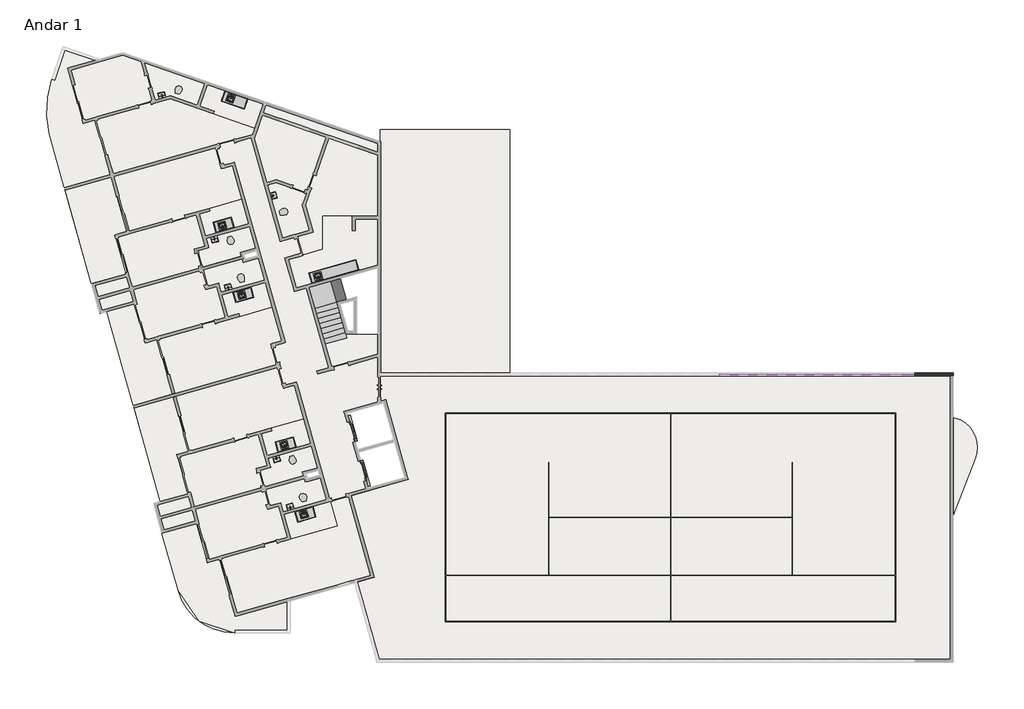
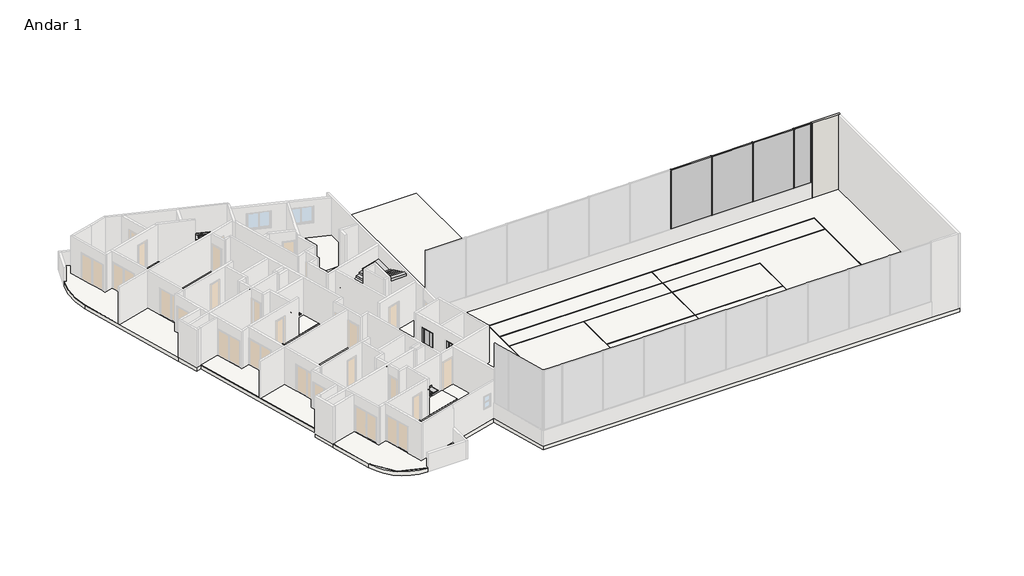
# One storey, part 4 of 4: 20 slabs, 18 flow terminals, 9 members, 8 proxies, 4 plates, 1 stair flight, 1 wall.
"""IFC4 building model written with IfcOpenShell, lengths in millimetres."""

from ifc_helpers import new_model, si_unit, point, frame, frame_2d, origin, place, context, project, spatial, polyline, circle_curve, trimmed, segment, composite_curve, outline, extrude, faceted_brep, transform, mapped, element, save
from components import specialty_equipment_6c35da8b, specialty_equipment_77dfa124, rf_bancada_cozinha_rf_bancada_cozinha_340fef9f, rf_bancada_cozinha_rf_bancada_cozinha_cfb88ba1, rf_bancada_cozinha_rf_bancada_cozinha_2f873929, rf_bancada_cozinha_rf_bancada_cozinha_798ceddf, flow_terminal_cab7bae2, flow_terminal_3fb7dc42, flow_terminal_e42b9071, flow_terminal_c6e042c4, ap_01_creme_cr37_13e02e03, ap_01_creme_cr37_5ce6e54d, montante_retangular_montante_circular_5ff1fdcf, montante_retangular_montante_circular_86a469dc, montante_retangular_montante_circular_5da571e1, montante_retangular_montante_circular_93a7cbd2, painel_do_sistema_4e286993, painel_do_sistema_153f832d

model = new_model("IFC4")

# Units and contexts
model_context = context("Model", 3, world=origin())
ifc_project = project(units=[si_unit("LENGTHUNIT", "METRE", prefix="MILLI")], contexts=[model_context])

# Site, building, storey
site = spatial("IfcSite", under=ifc_project)
building = spatial("IfcBuilding", under=site)
storey = spatial("IfcBuildingStorey", under=building, Name="Andar 1", Elevation=53650.0)

# Proxies
placement = place(None, origin())
specialty_equipment_shape = specialty_equipment_6c35da8b(model_context)
element("IfcBuildingElementProxy", 1, Name="Porta do elevador : Porta do elevador", ObjectType="Porta do elevador : Porta do elevador", at=placement, inside=storey, context=model_context, shape_type="MappedRepresentation", body=[
    mapped(specialty_equipment_shape, transform((-76594.4337486, 15747.4543727, 53650.0), x_axis=(0.27176796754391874, -0.9623628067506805, 0.0), y_axis=(0.9623628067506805, 0.27176796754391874, 0.0), z_axis=(0.0, 0.0, 1.0))),
])
specialty_equipment_2_shape = specialty_equipment_77dfa124(model_context)
element("IfcBuildingElementProxy", 2, Name="Porta do elevador : Porta do elevador", ObjectType="Porta do elevador : Porta do elevador", at=placement, inside=storey, context=model_context, shape_type="MappedRepresentation", body=[
    mapped(specialty_equipment_2_shape, transform((-75942.1906265, 13437.7836365, 53650.0), x_axis=(-0.27176796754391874, 0.9623628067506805, 0.0), y_axis=(-0.9623628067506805, -0.27176796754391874, 0.0), z_axis=(0.0, 0.0, 1.0))),
])
rf_bancada_cozinha_rf_bancada_cozinha_shape = rf_bancada_cozinha_rf_bancada_cozinha_340fef9f(model_context)
element("IfcBuildingElementProxy", 3, Name="RF_Bancada Cozinha : RF_Bancada Cozinha", ObjectType="RF_Bancada Cozinha : RF_Bancada Cozinha", at=placement, inside=storey, context=model_context, shape_type="MappedRepresentation", body=[
    mapped(rf_bancada_cozinha_rf_bancada_cozinha_shape, transform((-82760.548019, 26451.5820971, 54400.0), x_axis=(-0.9623628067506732, -0.27176796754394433, 0.0), y_axis=(0.27176796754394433, -0.9623628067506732, 0.0), z_axis=(0.0, 0.0, 1.0))),
])
element("IfcBuildingElementProxy", 4, Name="RF_Bancada Cozinha : RF_Bancada Cozinha", ObjectType="RF_Bancada Cozinha : RF_Bancada Cozinha", at=placement, inside=storey, context=model_context, shape_type="MappedRepresentation", body=[
    mapped(rf_bancada_cozinha_rf_bancada_cozinha_shape, transform((-79472.1556117, 14806.9921354, 54400.0), x_axis=(-0.9623628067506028, -0.2717679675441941, 0.0), y_axis=(0.2717679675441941, -0.9623628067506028, 0.0), z_axis=(0.0, 0.0, 1.0))),
])
rf_bancada_cozinha_rf_bancada_cozinha_2_shape = rf_bancada_cozinha_rf_bancada_cozinha_cfb88ba1(model_context)
element("IfcBuildingElementProxy", 5, Name="RF_Bancada Cozinha : RF_Bancada Cozinha", ObjectType="RF_Bancada Cozinha : RF_Bancada Cozinha", at=placement, inside=storey, context=model_context, shape_type="MappedRepresentation", body=[
    mapped(rf_bancada_cozinha_rf_bancada_cozinha_2_shape, transform((-81877.3021245, 23323.9029751, 54400.0), x_axis=(-0.9623628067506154, -0.27176796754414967, 0.0), y_axis=(0.27176796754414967, -0.9623628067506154, 0.0), z_axis=(0.0, 0.0, 1.0))),
])
element("IfcBuildingElementProxy", 6, Name="RF_Bancada Cozinha : RF_Bancada Cozinha", ObjectType="RF_Bancada Cozinha : RF_Bancada Cozinha", at=placement, inside=storey, context=model_context, shape_type="MappedRepresentation", body=[
    mapped(rf_bancada_cozinha_rf_bancada_cozinha_2_shape, transform((-78588.9097172, 11679.3130134, 54400.0), x_axis=(-0.9623628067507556, -0.27176796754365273, 0.0), y_axis=(0.27176796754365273, -0.9623628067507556, 0.0), z_axis=(0.0, 0.0, 1.0))),
])
rf_bancada_cozinha_rf_bancada_cozinha_3_shape = rf_bancada_cozinha_rf_bancada_cozinha_2f873929(model_context)
element("IfcBuildingElementProxy", 7, Name="RF_Bancada Cozinha : RF_Bancada Cozinha", ObjectType="RF_Bancada Cozinha : RF_Bancada Cozinha", at=placement, inside=storey, context=model_context, shape_type="MappedRepresentation", body=[
    mapped(rf_bancada_cozinha_rf_bancada_cozinha_3_shape, transform((-82030.0326121, 33293.9830661, 54400.0), x_axis=(-0.9449109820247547, 0.32732741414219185, 0.0), y_axis=(-0.32732741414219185, -0.9449109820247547, 0.0), z_axis=(0.0, 0.0, 1.0))),
])
rf_bancada_cozinha_rf_bancada_cozinha_4_shape = rf_bancada_cozinha_rf_bancada_cozinha_798ceddf(model_context)
element("IfcBuildingElementProxy", 8, Name="RF_Bancada Cozinha : RF_Bancada Cozinha", ObjectType="RF_Bancada Cozinha : RF_Bancada Cozinha", at=placement, inside=storey, context=model_context, shape_type="MappedRepresentation", body=[
    mapped(rf_bancada_cozinha_rf_bancada_cozinha_4_shape, transform((-76157.6622331, 24197.9763092, 54400.0), x_axis=(-0.9623628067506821, -0.27176796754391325, 0.0), y_axis=(0.27176796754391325, -0.9623628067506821, 0.0), z_axis=(0.0, 0.0, 1.0))),
])

# Flow terminals
flow_terminal_shape = flow_terminal_cab7bae2(model_context)
element("IfcFlowTerminal", 9, ObjectType="RF_Pias : Pia da Bancada", at=placement, inside=storey, context=model_context, shape_type="MappedRepresentation", body=[
    mapped(flow_terminal_shape, transform((-83380.5102831, 26570.4992214, 53502.9), x_axis=(-0.9623628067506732, -0.27176796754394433, 0.0), y_axis=(0.27176796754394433, -0.9623628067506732, 0.0), z_axis=(0.0, 0.0, 1.0))),
])
element("IfcFlowTerminal", 10, ObjectType="RF_Pias : Pia da Bancada", at=placement, inside=storey, context=model_context, shape_type="MappedRepresentation", body=[
    mapped(flow_terminal_shape, transform((-80092.1178758, 14925.9092597, 53502.9), x_axis=(-0.9623628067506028, -0.2717679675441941, 0.0), y_axis=(0.2717679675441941, -0.9623628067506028, 0.0), z_axis=(0.0, 0.0, 1.0))),
])
element("IfcFlowTerminal", 11, ObjectType="RF_Pias : Pia da Bancada", at=placement, inside=storey, context=model_context, shape_type="MappedRepresentation", body=[
    mapped(flow_terminal_shape, transform((-78306.8185143, 23885.0542694, 53502.9), x_axis=(-0.9623628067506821, -0.27176796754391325, 0.0), y_axis=(0.27176796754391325, -0.9623628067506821, 0.0), z_axis=(0.0, 0.0, 1.0))),
])
flow_terminal_2_shape = flow_terminal_3fb7dc42(model_context)
element("IfcFlowTerminal", 12, ObjectType="Deca_Cuba de Apoio Retangular_L7300 : L.7300.17_Branco Gelo GE17", at=placement, inside=storey, context=model_context, shape_type="MappedRepresentation", body=[
    mapped(flow_terminal_2_shape, transform((-83090.0822283, 23308.7374016, 54400.0), x_axis=(-0.9623628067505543, -0.27176796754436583, 0.0), y_axis=(0.27176796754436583, -0.9623628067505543, 0.0), z_axis=(0.0, 0.0, 1.0))),
])
element("IfcFlowTerminal", 13, ObjectType="Deca_Cuba de Apoio Retangular_L7300 : L.7300.17_Branco Gelo GE17", at=placement, inside=storey, context=model_context, shape_type="MappedRepresentation", body=[
    mapped(flow_terminal_2_shape, transform((-79801.689821, 11664.1474399, 54400.0), x_axis=(-0.9623628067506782, -0.2717679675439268, 0.0), y_axis=(0.2717679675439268, -0.9623628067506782, 0.0), z_axis=(0.0, 0.0, 1.0))),
])
element("IfcFlowTerminal", 14, ObjectType="Deca_Cuba de Apoio Retangular_L7300 : L.7300.17_Branco Gelo GE17", at=placement, inside=storey, context=model_context, shape_type="MappedRepresentation", body=[
    mapped(flow_terminal_2_shape, transform((-80677.0991462, 28154.8020678, 54400.0), x_axis=(-0.2717679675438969, 0.9623628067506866, 0.0), y_axis=(-0.9623628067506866, -0.2717679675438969, 0.0), z_axis=(0.0, 0.0, 1.0))),
])
element("IfcFlowTerminal", 15, ObjectType="Deca_Cuba de Apoio Retangular_L7300 : L.7300.17_Branco Gelo GE17", at=placement, inside=storey, context=model_context, shape_type="MappedRepresentation", body=[
    mapped(flow_terminal_2_shape, transform((-86597.4204814, 33488.7004496, 54400.0), x_axis=(-0.9623628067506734, -0.27176796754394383, 0.0), y_axis=(0.27176796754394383, -0.9623628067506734, 0.0), z_axis=(0.0, 0.0, 1.0))),
])
flow_terminal_3_shape = flow_terminal_e42b9071(model_context)
element("IfcFlowTerminal", 16, ObjectType="Deca_Cuba de Apoio Retangular_L7300 : L.7300.17_Branco Gelo GE17", at=placement, inside=storey, context=model_context, shape_type="MappedRepresentation", body=[
    mapped(flow_terminal_3_shape, transform((-83802.1143033, 25830.1279553, 54400.0), x_axis=(-0.9623628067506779, -0.2717679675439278, 0.0), y_axis=(0.2717679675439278, -0.9623628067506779, 0.0), z_axis=(0.0, 0.0, 1.0))),
])
element("IfcFlowTerminal", 17, ObjectType="Deca_Cuba de Apoio Retangular_L7300 : L.7300.17_Branco Gelo GE17", at=placement, inside=storey, context=model_context, shape_type="MappedRepresentation", body=[
    mapped(flow_terminal_3_shape, transform((-80513.721896, 14185.5379936, 54400.0), x_axis=(-0.962362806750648, -0.27176796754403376, 0.0), y_axis=(0.27176796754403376, -0.962362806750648, 0.0), z_axis=(0.0, 0.0, 1.0))),
])
flow_terminal_4_shape = flow_terminal_c6e042c4(model_context)
element("IfcFlowTerminal", 18, ObjectType="RF_Pias : Pia da Bancada", at=placement, inside=storey, context=model_context, shape_type="MappedRepresentation", body=[
    mapped(flow_terminal_4_shape, transform((-82343.483233, 22898.2626745, 53502.9), x_axis=(-0.9623628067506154, -0.27176796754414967, 0.0), y_axis=(0.27176796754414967, -0.9623628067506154, 0.0), z_axis=(0.0, 0.0, 1.0))),
])
element("IfcFlowTerminal", 19, ObjectType="RF_Pias : Pia da Bancada", at=placement, inside=storey, context=model_context, shape_type="MappedRepresentation", body=[
    mapped(flow_terminal_4_shape, transform((-79055.0908257, 11253.6727129, 53502.9), x_axis=(-0.9623628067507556, -0.27176796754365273, 0.0), y_axis=(0.27176796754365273, -0.9623628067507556, 0.0), z_axis=(0.0, 0.0, 1.0))),
])
element("IfcFlowTerminal", 20, ObjectType="RF_Pias : Pia da Bancada", at=placement, inside=storey, context=model_context, shape_type="MappedRepresentation", body=[
    mapped(flow_terminal_4_shape, transform((-82939.3392028, 33309.5545572, 53502.9), x_axis=(-0.9449109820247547, 0.32732741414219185, 0.0), y_axis=(-0.32732741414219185, -0.9449109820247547, 0.0), z_axis=(0.0, 0.0, 1.0))),
])
ap_01_creme_cr37_shape = ap_01_creme_cr37_13e02e03(model_context)
element("IfcFlowTerminal", 21, ObjectType="Deca_Shared_Assento_P.900 : AP.01_Creme CR37", at=placement, inside=storey, context=model_context, shape_type="MappedRepresentation", body=[
    mapped(ap_01_creme_cr37_shape, transform((-83017.5301151, 25983.4740486, 54037.8723674), x_axis=(0.9623628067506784, 0.2717679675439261, 0.0), y_axis=(0.0, 0.0, 1.0), z_axis=(0.2717679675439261, -0.9623628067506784, 0.0))),
])
element("IfcFlowTerminal", 22, ObjectType="Deca_Shared_Assento_P.900 : AP.01_Creme CR37", at=placement, inside=storey, context=model_context, shape_type="MappedRepresentation", body=[
    mapped(ap_01_creme_cr37_shape, transform((-79729.1377078, 14338.8840869, 54037.8723674), x_axis=(0.962362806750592, 0.2717679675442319, 0.0), y_axis=(0.0, 0.0, 1.0), z_axis=(0.2717679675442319, -0.962362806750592, 0.0))),
])
element("IfcFlowTerminal", 23, ObjectType="Deca_Shared_Assento_P.900 : AP.01_Creme CR37", at=placement, inside=storey, context=model_context, shape_type="MappedRepresentation", body=[
    mapped(ap_01_creme_cr37_shape, transform((-80349.5164684, 27236.3600819, 54037.8723674), x_axis=(-0.271767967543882, 0.9623628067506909, 0.0), y_axis=(0.0, 0.0, 1.0), z_axis=(0.9623628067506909, 0.271767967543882, 0.0))),
])
element("IfcFlowTerminal", 24, ObjectType="Deca_Shared_Assento_P.900 : AP.01_Creme CR37", at=placement, inside=storey, context=model_context, shape_type="MappedRepresentation", body=[
    mapped(ap_01_creme_cr37_shape, transform((-85777.8760768, 33566.4131555, 54037.8723674), x_axis=(-0.9449109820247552, 0.3273274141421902, 0.0), y_axis=(0.0, 0.0, 1.0000000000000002), z_axis=(0.3273274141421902, 0.9449109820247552, 0.0))),
])
ap_01_creme_cr37_2_shape = ap_01_creme_cr37_5ce6e54d(model_context)
element("IfcFlowTerminal", 25, ObjectType="Deca_Shared_Assento_P.900 : AP.01_Creme CR37", at=placement, inside=storey, context=model_context, shape_type="MappedRepresentation", body=[
    mapped(ap_01_creme_cr37_2_shape, transform((-82341.1813229, 23588.4422577, 54037.8723674), x_axis=(0.9623628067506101, 0.2717679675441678, 0.0), y_axis=(0.0, 0.0, -1.0), z_axis=(-0.2717679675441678, 0.9623628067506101, 0.0))),
])
element("IfcFlowTerminal", 26, ObjectType="Deca_Shared_Assento_P.900 : AP.01_Creme CR37", at=placement, inside=storey, context=model_context, shape_type="MappedRepresentation", body=[
    mapped(ap_01_creme_cr37_2_shape, transform((-79052.7889156, 11943.852296, 54037.8723674), x_axis=(0.9623628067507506, 0.2717679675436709, 0.0), y_axis=(0.0, 0.0, -1.0000000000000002), z_axis=(-0.2717679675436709, 0.9623628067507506, 0.0))),
])

# Members
montante_retangular_montante_circular_shape = montante_retangular_montante_circular_5ff1fdcf(model_context)
element("IfcMember", 27, ObjectType="Montante retangular : Montante Circular", at=placement, inside=storey, context=model_context, shape_type="MappedRepresentation", body=[
    mapped(montante_retangular_montante_circular_shape, transform((-54057.8282186, 18677.5140353, 59450.0), x_axis=(0.0, 0.0, 1.0), y_axis=(0.0, -1.0, 0.0), z_axis=(1.0, 0.0, 0.0))),
])
element("IfcMember", 28, ObjectType="Montante retangular : Montante Circular", at=placement, inside=storey, context=model_context, shape_type="MappedRepresentation", body=[
    mapped(montante_retangular_montante_circular_shape, transform((-51057.8282186, 18677.5140353, 59450.0), x_axis=(0.0, 0.0, 1.0), y_axis=(0.0, -1.0, 0.0), z_axis=(1.0, 0.0, 0.0))),
])
element("IfcMember", 29, ObjectType="Montante retangular : Montante Circular", at=placement, inside=storey, context=model_context, shape_type="MappedRepresentation", body=[
    mapped(montante_retangular_montante_circular_shape, transform((-48057.8282186, 18677.5140353, 59450.0), x_axis=(0.0, 0.0, 1.0), y_axis=(0.0, -1.0, 0.0), z_axis=(1.0, 0.0, 0.0))),
])
montante_retangular_montante_circular_2_shape = montante_retangular_montante_circular_86a469dc(model_context)
element("IfcMember", 30, ObjectType="Montante retangular : Montante Circular", at=placement, inside=storey, context=model_context, shape_type="MappedRepresentation", body=[
    mapped(montante_retangular_montante_circular_2_shape, transform((-57027.8282186, 18677.5140353, 54850.0), x_axis=(1.0, 0.0, 0.0), y_axis=(0.0, -1.0, 0.0), z_axis=(0.0, 0.0, -1.0))),
])
element("IfcMember", 31, ObjectType="Montante retangular : Montante Circular", at=placement, inside=storey, context=model_context, shape_type="MappedRepresentation", body=[
    mapped(montante_retangular_montante_circular_2_shape, transform((-54027.8282186, 18677.5140353, 54850.0), x_axis=(1.0, 0.0, 0.0), y_axis=(0.0, -1.0, 0.0), z_axis=(0.0, 0.0, -1.0))),
])
element("IfcMember", 32, ObjectType="Montante retangular : Montante Circular", at=placement, inside=storey, context=model_context, shape_type="MappedRepresentation", body=[
    mapped(montante_retangular_montante_circular_2_shape, transform((-51027.8282186, 18677.5140353, 54850.0), x_axis=(1.0, 0.0, 0.0), y_axis=(0.0, -1.0, 0.0), z_axis=(0.0, 0.0, -1.0))),
])
element("IfcMember", 33, ObjectType="Montante retangular : Montante Circular", at=placement, inside=storey, context=model_context, shape_type="MappedRepresentation", body=[
    mapped(montante_retangular_montante_circular_2_shape, transform((-48027.8282186, 18677.5140353, 54850.0), x_axis=(1.0, 0.0, 0.0), y_axis=(0.0, -1.0, 0.0), z_axis=(0.0, 0.0, -1.0))),
])
montante_retangular_montante_circular_3_shape = montante_retangular_montante_circular_5da571e1(model_context)
element("IfcMember", 34, ObjectType="Montante retangular : Montante Circular", at=placement, inside=storey, context=model_context, shape_type="MappedRepresentation", body=[
    mapped(montante_retangular_montante_circular_3_shape, transform((-46729.2084298, 18677.5140353, 54850.0), x_axis=(1.0, 0.0, 0.0), y_axis=(0.0, -1.0, 0.0), z_axis=(0.0, 0.0, -1.0))),
])
montante_retangular_montante_circular_4_shape = montante_retangular_montante_circular_93a7cbd2(model_context)
element("IfcMember", 35, ObjectType="Montante retangular : Montante Circular", at=placement, inside=storey, context=model_context, shape_type="MappedRepresentation", body=[
    mapped(montante_retangular_montante_circular_4_shape, transform((-46789.2084298, 18677.5140353, 59450.0), x_axis=(0.0, 0.0, 1.0), y_axis=(0.0, -1.0, 0.0), z_axis=(1.0, 0.0, 0.0))),
])

# Plates
painel_do_sistema_shape = painel_do_sistema_4e286993(model_context)
element("IfcPlate", 36, ObjectType="Painel do sistema : Gradil Alambrado", at=placement, inside=storey, context=model_context, shape_type="MappedRepresentation", body=[
    mapped(painel_do_sistema_shape, transform((-55527.8282186, 18677.5140353, 54850.0), x_axis=(1.0, 0.0, 0.0), y_axis=(0.0, 1.0, 0.0), z_axis=(0.0, 0.0, 1.0))),
])
element("IfcPlate", 37, ObjectType="Painel do sistema : Gradil Alambrado", at=placement, inside=storey, context=model_context, shape_type="MappedRepresentation", body=[
    mapped(painel_do_sistema_shape, transform((-52527.8282186, 18677.5140353, 54850.0), x_axis=(1.0, 0.0, 0.0), y_axis=(0.0, 1.0, 0.0), z_axis=(0.0, 0.0, 1.0))),
])
element("IfcPlate", 38, ObjectType="Painel do sistema : Gradil Alambrado", at=placement, inside=storey, context=model_context, shape_type="MappedRepresentation", body=[
    mapped(painel_do_sistema_shape, transform((-49527.8282186, 18677.5140353, 54850.0), x_axis=(1.0, 0.0, 0.0), y_axis=(0.0, 1.0, 0.0), z_axis=(0.0, 0.0, 1.0))),
])
painel_do_sistema_2_shape = painel_do_sistema_153f832d(model_context)
element("IfcPlate", 39, ObjectType="Painel do sistema : Gradil Alambrado", at=placement, inside=storey, context=model_context, shape_type="MappedRepresentation", body=[
    mapped(painel_do_sistema_2_shape, transform((-47393.5183242, 18677.5140353, 54850.0), x_axis=(1.0, 0.0, 0.0), y_axis=(0.0, 1.0, 0.0), z_axis=(0.0, 0.0, 1.0))),
])

# Slabs
element("IfcSlab", 40, ObjectType="TZ_Piso de Áreas Molhadas", at=placement, inside=storey, context=model_context, shape_type="SweptSolid", body=[
    extrude(outline(composite_curve([segment(polyline([(-90765.4571774, 31984.341749), (-90143.7425806, 32159.9118263), (-89328.438678, 29272.823406), (-91766.0080564, 28584.4621444), (-92573.2320087, 31442.9384962)]), True, "CONTINUOUS"), segment(trimmed(circle_curve(frame_2d((-87414.5556743, 32622.5665107)), 5291.829908), [point((-92573.2320087, 31442.9384962))], [point((-92422.0860726, 34333.7366032))], False, "CARTESIAN"), True, "CONTINUOUS"), segment(polyline([(-92422.0860726, 34333.7366032), (-92280.2794148, 34284.6132387), (-91729.7010481, 35873.9929322), (-90151.0501028, 35327.1311202), (-91594.3494784, 34919.5483093), (-90765.4571774, 31984.341749)]), True, "CONTINUOUS")], self_intersect=False)), frame((0.0, 0.0, 53650.0), z_axis=(0.0, 0.0, 1.0), x_axis=(1.0, 0.0, 0.0)), (0.0, 0.0, 1.0), 20.0),
])
element("IfcSlab", 41, ObjectType="TZ_Piso de Áreas Molhadas", at=placement, inside=storey, context=model_context, shape_type="SweptSolid", body=[
    extrude(outline(polyline([(-88472.3695802, 26241.3805647), (-89094.084177, 26065.8104874), (-88509.7830468, 23996.7304529), (-90325.6378284, 23483.9392686), (-91725.2428613, 28440.1077234), (-89287.6734828, 29128.468985), (-88472.3695802, 26241.3805647)])), frame((0.0, 0.0, 53650.0), z_axis=(0.0, 0.0, 1.0), x_axis=(1.0, 0.0, 0.0)), (0.0, 0.0, 1.0), 20.0),
])
element("IfcSlab", 42, ObjectType="TZ_Piso de Áreas Molhadas", at=placement, inside=storey, context=model_context, shape_type="SweptSolid", body=[
    extrude(outline(polyline([(-86855.3501733, 20515.3218645), (-86040.0462707, 17628.2334443), (-88109.1263052, 17043.9323141), (-89508.731338, 22000.1007688), (-88061.3659003, 22408.8318218), (-87477.0647701, 20339.7517872), (-86855.3501733, 20515.3218645)])), frame((0.0, 0.0, 53650.0), z_axis=(0.0, 0.0, 1.0), x_axis=(1.0, 0.0, 0.0)), (0.0, 0.0, 1.0), 20.0),
])
element("IfcSlab", 43, ObjectType="TZ_Piso de Áreas Molhadas", at=placement, inside=storey, context=model_context, shape_type="SweptSolid", body=[
    extrude(outline(polyline([(-78926.5637691, 28284.9851582), (-79146.9727346, 27648.7205404), (-78771.1333302, 26317.8283554), (-80214.6775403, 25910.176404), (-81004.3851492, 28706.6252933), (-80530.2499593, 28840.5194505), (-78926.5637691, 28284.9851582)])), frame((0.0, 0.0, 53650.0), z_axis=(0.0, 0.0, 1.0), x_axis=(1.0, 0.0, 0.0)), (0.0, 0.0, 1.0), 20.0),
])
element("IfcSlab", 44, ObjectType="TZ_Piso de Áreas Molhadas", at=placement, inside=storey, context=model_context, shape_type="SweptSolid", body=[
    extrude(outline(polyline([(-78070.9150345, 27060.8243598), (-76493.6479314, 27060.8243598), (-76493.6479314, 26310.8243598), (-76343.6479314, 26310.8243598), (-76343.6479314, 26910.8243598), (-75147.8282189, 26910.8243598), (-75147.8282189, 24483.4871675), (-79467.3156296, 23263.6786855), (-79888.5559793, 24755.3410359), (-79127.7601479, 24970.1871785), (-79141.3485461, 25018.3053183), (-78070.9150345, 25320.5920836), (-78070.9150345, 27060.8243598)])), frame((0.0, 0.0, 53650.0), z_axis=(0.0, 0.0, 1.0), x_axis=(1.0, 0.0, 0.0)), (0.0, 0.0, 1.0), 20.0),
])
element("IfcSlab", 45, ObjectType="TZ_Piso de Áreas Molhadas", at=placement, inside=storey, context=model_context, shape_type="SweptSolid", body=[
    extrude(outline(polyline([(-84719.4810559, 32955.6762822), (-86137.8721095, 33447.0223292), (-86956.7711455, 33215.7680402), (-87515.4733556, 35194.1992432), (-84326.6881589, 34089.5694606), (-84719.4810559, 32955.6762822)])), frame((0.0, 0.0, 53650.0), z_axis=(0.0, 0.0, 1.0), x_axis=(1.0, 0.0, 0.0)), (0.0, 0.0, 1.0), 20.0),
])
element("IfcSlab", 46, ObjectType="TZ_Piso de Áreas Molhadas", at=placement, inside=storey, context=model_context, shape_type="SweptSolid", body=[
    extrude(outline(polyline([(-84577.7444086, 32906.57717), (-84184.9515116, 34040.4703485), (-81226.8582774, 33015.7547641), (-81668.7502865, 31740.1249383), (-83870.9147351, 32502.9785914), (-83821.815623, 32644.7152387), (-84577.7444086, 32906.57717)])), frame((0.0, 0.0, 53650.0), z_axis=(0.0, 0.0, 1.0), x_axis=(1.0, 0.0, 0.0)), (0.0, 0.0, 1.0), 20.0),
])
element("IfcSlab", 47, ObjectType="TZ_Piso de Áreas Molhadas", at=placement, inside=storey, context=model_context, shape_type="SweptSolid", body=[
    extrude(outline(polyline([(-81949.8925784, 26524.6420501), (-81623.7710174, 25369.806682), (-82432.1557751, 25141.5215893), (-82377.8021816, 24949.0490279), (-84456.5058441, 24362.030218), (-84701.0970149, 25228.1567441), (-84123.6793309, 25391.2175246), (-84259.5633146, 25872.398928), (-81949.8925784, 26524.6420501)])), frame((0.0, 0.0, 53650.0), z_axis=(0.0, 0.0, 1.0), x_axis=(1.0, 0.0, 0.0)), (0.0, 0.0, 1.0), 20.0),
])
element("IfcSlab", 48, ObjectType="TZ_Piso de Áreas Molhadas", at=placement, inside=storey, context=model_context, shape_type="SweptSolid", body=[
    extrude(outline(polyline([(-84089.7975819, 27479.0039186), (-82357.5445298, 27968.1862602), (-81990.6577736, 26668.9964711), (-84300.3285098, 26016.753349), (-84626.4500708, 27171.5887171), (-84049.0323868, 27334.6494976), (-84089.7975819, 27479.0039186)])), frame((0.0, 0.0, 53650.0), z_axis=(0.0, 0.0, 1.0), x_axis=(1.0, 0.0, 0.0)), (0.0, 0.0, 1.0), 20.0),
])
element("IfcSlab", 49, ObjectType="TZ_Piso de Áreas Molhadas", at=placement, inside=storey, context=model_context, shape_type="SweptSolid", body=[
    extrude(outline(polyline([(-84171.1494782, 23351.5492709), (-84415.740649, 24217.675797), (-82337.0369864, 24804.6946069), (-82282.6833929, 24612.2220455), (-81474.2986352, 24840.5071383), (-81148.1770742, 23685.6717702), (-83457.8478104, 23033.4286481), (-83593.7317942, 23514.6100514), (-84171.1494782, 23351.5492709)])), frame((0.0, 0.0, 53650.0), z_axis=(0.0, 0.0, 1.0), x_axis=(1.0, 0.0, 0.0)), (0.0, 0.0, 1.0), 20.0),
])
element("IfcSlab", 50, ObjectType="TZ_Piso de Áreas Molhadas", at=placement, inside=storey, context=model_context, shape_type="SweptSolid", body=[
    extrude(outline(composite_curve([segment(polyline([(-79945.4990038, 5119.4122055), (-82713.5540687, 5119.4122055), (-82713.5540687, 4969.4122055), (-82751.3896972, 4969.4122055)]), True, "CONTINUOUS"), segment(trimmed(circle_curve(frame_2d((-82751.3896972, 8069.4122055)), 3100.0), [point((-82751.3896972, 4969.4122055))], [point((-85734.7143981, 7226.9315061))], False, "CARTESIAN"), True, "CONTINUOUS"), segment(polyline([(-85734.7143981, 7226.9315061), (-86588.8282733, 10251.4506708), (-84772.9735093, 10764.2419177), (-84188.6722855, 8695.1618243), (-83566.957766, 8870.7319029), (-82710.8885369, 5839.2889958), (-79945.4990038, 6620.2256515), (-79945.4990038, 5119.4122055)]), True, "CONTINUOUS")], self_intersect=False)), frame((0.0, 0.0, 53650.0), z_axis=(0.0, 0.0, 1.0), x_axis=(1.0, 0.0, 0.0)), (0.0, 0.0, 1.0), 20.0),
])
element("IfcSlab", 51, ObjectType="TZ_Piso de Áreas Molhadas", at=placement, inside=storey, context=model_context, shape_type="SweptSolid", body=[
    extrude(outline(polyline([(-78185.906228, 13195.9171766), (-77859.7846669, 12041.0818085), (-80169.4554031, 11388.8386864), (-80305.3393869, 11870.0200898), (-80882.7570709, 11706.9593092), (-81127.3482417, 12573.0858353), (-79048.6445791, 13160.1046452), (-78994.2909856, 12967.6320839), (-78185.906228, 13195.9171766)])), frame((0.0, 0.0, 53650.0), z_axis=(0.0, 0.0, 1.0), x_axis=(1.0, 0.0, 0.0)), (0.0, 0.0, 1.0), 20.0),
])
element("IfcSlab", 52, ObjectType="TZ_Piso de Áreas Molhadas", at=placement, inside=storey, context=model_context, shape_type="SweptSolid", body=[
    extrude(outline(polyline([(-77307.7782946, 10638.3027935), (-79761.8034518, 9945.2944763), (-80128.690208, 11244.4842654), (-77674.6650508, 11937.4925826), (-77307.7782946, 10638.3027935)])), frame((0.0, 0.0, 53650.0), z_axis=(0.0, 0.0, 1.0), x_axis=(1.0, 0.0, 0.0)), (0.0, 0.0, 1.0), 20.0),
])
element("IfcSlab", 53, ObjectType="TZ_Piso de Áreas Molhadas", at=placement, inside=storey, context=model_context, shape_type="SweptSolid", body=[
    extrude(outline(polyline([(-81107.9410005, 23543.1910314), (-80740.5251229, 22242.1275601), (-82472.778175, 21752.9452185), (-82513.5433702, 21897.2996395), (-83090.9610542, 21734.238859), (-83418.0192411, 22888.8089065), (-81107.9410005, 23543.1910314)])), frame((0.0, 0.0, 53650.0), z_axis=(0.0, 0.0, 1.0), x_axis=(1.0, 0.0, 0.0)), (0.0, 0.0, 1.0), 20.0),
])
element("IfcSlab", 54, ObjectType="TZ_Piso de Áreas Molhadas", at=placement, inside=storey, context=model_context, shape_type="SweptSolid", body=[
    extrude(outline(polyline([(-85183.9771729, 14596.790603), (-85805.6917697, 14421.2205257), (-85221.3906395, 12352.1404912), (-86668.7560772, 11943.4094383), (-88068.36111, 16899.5778931), (-85999.2810755, 17483.8790233), (-85183.9771729, 14596.790603)])), frame((0.0, 0.0, 53650.0), z_axis=(0.0, 0.0, 1.0), x_axis=(1.0, 0.0, 0.0)), (0.0, 0.0, 1.0), 20.0),
])
element("IfcSlab", 55, ObjectType="TZ_Piso de Áreas Molhadas", at=placement, inside=storey, context=model_context, shape_type="SweptSolid", body=[
    extrude(outline(polyline([(-81412.7046076, 13583.5667824), (-80835.2869236, 13746.6275629), (-80971.1709074, 14227.8089663), (-78661.5001712, 14880.0520884), (-78335.3786101, 13725.2167203), (-79143.7633678, 13496.9316276), (-79089.4097743, 13304.4590662), (-81168.1134368, 12717.4402563), (-81412.7046076, 13583.5667824)])), frame((0.0, 0.0, 53650.0), z_axis=(0.0, 0.0, 1.0), x_axis=(1.0, 0.0, 0.0)), (0.0, 0.0, 1.0), 20.0),
])
element("IfcSlab", 56, ObjectType="TZ_Piso de Áreas Molhadas", at=placement, inside=storey, context=model_context, shape_type="SweptSolid", body=[
    extrude(outline(polyline([(-78701.7362448, 15022.5328272), (-81012.8731576, 14371.8995868), (-81338.0576635, 15526.9987554), (-80760.6399795, 15690.059536), (-80801.4051746, 15834.413957), (-79069.1521225, 16323.5962985), (-78701.7362448, 15022.5328272)])), frame((0.0, 0.0, 53650.0), z_axis=(0.0, 0.0, 1.0), x_axis=(1.0, 0.0, 0.0)), (0.0, 0.0, 1.0), 20.0),
])
element("IfcSlab", 57, ObjectType="TZ_Gramado", at=placement, inside=storey, context=model_context, shape_type="SweptSolid", body=[
    extrude(outline(polyline([(-44805.8696428, 18602.5140353), (-44805.8696428, 3561.0495751), (-75082.1544481, 3561.0495751), (-76241.0174307, 7664.7216989), (-75346.8434, 7917.2333892), (-76569.5998456, 12247.1598907), (-73542.9688183, 13101.8701486), (-74739.1759862, 17337.7824893), (-74997.8282189, 17264.7399828), (-74997.8282189, 18602.5140353), (-44805.8696428, 18602.5140353)])), frame((0.0, 0.0, 53650.0), z_axis=(0.0, 0.0, 1.0), x_axis=(1.0, 0.0, 0.0)), (0.0, 0.0, 1.0), 20.0),
])
element("IfcSlab", 58, ObjectType="Piso Quadra de Tênis 2", at=placement, inside=storey, context=model_context, shape_type="SweptSolid", body=[
    extrude(outline(polyline([(-47698.0880769, 16635.3543096), (-47698.0880769, 5565.3543096), (-71568.0880769, 5565.3543096), (-71568.0880769, 16635.3543096), (-47698.0880769, 16635.3543096)]), holes=[polyline([(-59593.0880769, 5615.3543096), (-47748.0880769, 5615.3543096), (-47748.0880769, 8000.3543096), (-59593.0880769, 8000.3543096), (-59593.0880769, 5615.3543096)]), polyline([(-47748.0880769, 15240.3543096), (-47748.0880769, 16585.3543096), (-59593.0880769, 16585.3543096), (-59593.0880769, 15240.3543096), (-47748.0880769, 15240.3543096)]), polyline([(-59643.0880769, 16585.3543096), (-71518.0880769, 16585.3543096), (-71518.0880769, 15240.3543096), (-59643.0880769, 15240.3543096), (-59643.0880769, 16585.3543096)]), polyline([(-71518.0880769, 8000.3543096), (-71518.0880769, 5615.3543096), (-59643.0880769, 5615.3543096), (-59643.0880769, 8000.3543096), (-71518.0880769, 8000.3543096)]), polyline([(-59643.0880769, 14050.3543096), (-59643.0880769, 15190.3543096), (-71518.0880769, 15190.3543096), (-71518.0880769, 14050.3543096), (-59643.0880769, 14050.3543096)]), polyline([(-59593.0880769, 14000.3543096), (-59593.0880769, 11125.3543096), (-53208.0880769, 11125.3543096), (-53208.0880769, 14000.3543096), (-59593.0880769, 14000.3543096)]), polyline([(-66108.0880769, 14000.3543096), (-71518.0880769, 14000.3543096), (-71518.0880769, 8050.3543096), (-66108.0880769, 8050.3543096), (-66108.0880769, 14000.3543096)]), polyline([(-66058.0880769, 11125.3543096), (-59643.0880769, 11125.3543096), (-59643.0880769, 14000.3543096), (-66058.0880769, 14000.3543096), (-66058.0880769, 11125.3543096)]), polyline([(-59593.0880769, 11075.3543096), (-59593.0880769, 8050.3543096), (-53208.0880769, 8050.3543096), (-53208.0880769, 11075.3543096), (-59593.0880769, 11075.3543096)]), polyline([(-59643.0880769, 8050.3543096), (-59643.0880769, 11075.3543096), (-66058.0880769, 11075.3543096), (-66058.0880769, 8050.3543096), (-59643.0880769, 8050.3543096)]), polyline([(-59593.0880769, 15190.3543096), (-59593.0880769, 14050.3543096), (-53158.0880769, 14050.3543096), (-53158.0880769, 8050.3543096), (-47748.0880769, 8050.3543096), (-47748.0880769, 15190.3543096), (-59593.0880769, 15190.3543096)])]), frame((0.0, 0.0, 53645.0), z_axis=(0.0, 0.0, 1.0), x_axis=(1.0, 0.0, 0.0)), (0.0, 0.0, 1.0), 30.0),
])
element("IfcSlab", 59, ObjectType="TZ_Laje 30cm", at=placement, inside=storey, context=model_context, shape_type="SweptSolid", body=[
    extrude(outline(composite_curve([segment(polyline([(-82713.5540687, 4969.4122055), (-82751.3896972, 4969.4122055)]), True, "CONTINUOUS"), segment(trimmed(circle_curve(frame_2d((-82751.3896972, 8069.4122055)), 3100.0), [point((-82751.3896972, 4969.4122055))], [point((-85734.7143981, 7226.9315061))], False, "CARTESIAN"), True, "CONTINUOUS"), segment(polyline([(-85734.7143981, 7226.9315061), (-86588.8282747, 10251.4506758), (-86574.3928326, 10255.5271953), (-87018.7334595, 11828.9903844), (-86664.6795577, 11928.9739962), (-89512.8078575, 22014.5362109), (-89866.8617594, 21914.5525991), (-90311.2023863, 23488.0157882), (-90325.6378284, 23483.9392686), (-92573.2320087, 31442.9384962)]), True, "CONTINUOUS"), segment(trimmed(circle_curve(frame_2d((-87414.5556743, 32622.5665107)), 5291.829908), [point((-92573.2320087, 31442.9384962))], [point((-92426.4466323, 34320.9224218))], False, "CARTESIAN"), True, "CONTINUOUS"), segment(polyline([(-92426.4466323, 34320.9224218), (-92422.0160621, 34333.7123509), (-92403.1178425, 34327.1658026), (-91809.986912, 36039.3839237), (-89899.2062586, 35377.468778), (-88658.6666899, 35727.7929124), (-75017.8282189, 31002.4584964), (-75017.8282189, 31653.8506069), (-68168.5796889, 31653.8506069), (-68168.5796889, 18732.5140353), (-44675.8696428, 18732.5140353), (-44675.8696428, 16382.3225981), (-44271.4512696, 16253.2354297)]), True, "CONTINUOUS"), segment(trimmed(circle_curve(frame_2d((-45007.5141295, 14798.8931501)), 1630.0), [point((-44271.4512696, 16253.2354297))], [point((-43487.4022028, 14210.5397443))], False, "CARTESIAN"), True, "CONTINUOUS"), segment(polyline([(-43487.4022028, 14210.5397443), (-44675.8696428, 11139.9302906), (-44675.8696428, 3431.0495751), (-75180.5270822, 3431.0495751), (-76371.9880656, 7650.1551103), (-79815.4990038, 6677.7193903), (-79815.4990038, 4989.4122055), (-82713.5540687, 4989.4122055), (-82713.5540687, 4969.4122055)]), True, "CONTINUOUS")], self_intersect=False), holes=[polyline([(-81583.0058223, 25225.452261), (-82247.0361589, 25037.9323634), (-82179.094167, 24797.3416617), (-81515.0638304, 24984.8615593), (-81583.0058223, 25225.452261)]), polyline([(-78294.613415, 13580.8622993), (-78958.6437516, 13393.3424017), (-78890.7017597, 13152.7517), (-78226.6714231, 13340.2715976), (-78294.613415, 13580.8622993)]), polyline([(-74840.4856705, 17153.3066079), (-76760.3994699, 16611.1295126), (-76221.8794944, 14704.1660107), (-75646.150803, 12665.442005), (-73726.2370035, 13207.6191002), (-74270.7319215, 15135.7405865), (-74840.4856705, 17153.3066079)]), polyline([(-77952.9130698, 20291.1915783), (-76801.2963825, 20616.4041949), (-76858.5413412, 20819.1154254), (-75147.8282189, 20819.1154254), (-75147.8282189, 24343.0530162), (-78807.9060206, 23309.4595541), (-77952.9130698, 20291.1915783)])]), frame((0.0, 0.0, 53350.0), z_axis=(0.0, 0.0, 1.0), x_axis=(1.0, 0.0, 0.0)), (0.0, 0.0, 1.0), 300.0),
])

# Stair flight
element("IfcStairFlight", 60, ObjectType="Profundidade de 150mm", at=placement, inside=storey, context=model_context, shape_type="Brep", body=[
    faceted_brep([(-78029.0944782, 20560.1246789, 53788.0952381), (-77952.7808761, 20290.7249124, 53788.0952381), (-76802.2714069, 20616.6328483, 53788.0952381), (-76878.3664628, 20886.0945229, 53788.0952381), (-78029.0944782, 20560.1246789, 53650.0), (-77952.7808761, 20290.7249124, 53650.0), (-76802.2714069, 20616.6328483, 53650.0), (-76878.3664628, 20886.0945229, 53650.0), (-78105.4080802, 20829.5244453, 53926.1904762), (-78029.0944782, 20560.1246789, 53926.1904762), (-76878.3664628, 20886.0945229, 53926.1904762), (-76954.4615188, 21155.5561975, 53926.1904762), (-78105.4080802, 20829.5244453, 53758.939228), (-78045.2065482, 20617.0029783, 53650.0), (-76894.4323913, 20942.985893, 53650.0), (-76954.4615188, 21155.5561975, 53758.939228), (-78181.7216823, 21098.9242117, 54064.2857143), (-78105.4080802, 20829.5244453, 54064.2857143), (-76954.4615188, 21155.5561975, 54064.2857143), (-77030.5565747, 21425.017872, 54064.2857143), (-78181.7216823, 21098.9242117, 53897.0344661), (-77030.5565747, 21425.017872, 53897.0344661), (-78258.0352843, 21368.3239781, 54202.3809524), (-78181.7216823, 21098.9242117, 54202.3809524), (-77030.5565747, 21425.017872, 54202.3809524), (-77106.6516307, 21694.4795466, 54202.3809524), (-78258.0352843, 21368.3239781, 54035.1297042), (-77106.6516307, 21694.4795466, 54035.1297042), (-78334.3488864, 21637.7237445, 54340.4761905), (-78258.0352843, 21368.3239781, 54340.4761905), (-77106.6516307, 21694.4795466, 54340.4761905), (-77182.7466866, 21963.9412211, 54340.4761905), (-78334.3488864, 21637.7237445, 54173.2249423), (-77182.7466866, 21963.9412211, 54173.2249423), (-78410.6624885, 21907.1235109, 54478.5714286), (-78334.3488864, 21637.7237445, 54478.5714286), (-77182.7466866, 21963.9412211, 54478.5714286), (-77258.8417426, 22233.4028957, 54478.5714286), (-78410.6624885, 21907.1235109, 54311.3201804), (-77258.8417426, 22233.4028957, 54311.3201804), (-78486.9760905, 22176.5232773, 54616.6666667), (-78410.6624885, 21907.1235109, 54616.6666667), (-77258.8417426, 22233.4028957, 54616.6666667), (-77334.9367985, 22502.8645702, 54616.6666667), (-78486.9760905, 22176.5232773, 54449.4154185), (-77334.9367985, 22502.8645702, 54449.4154185), (-77650.6473278, 23620.8332322, 54754.7619048), (-78803.8582924, 23295.1703972, 54754.7619048), (-78572.8230038, 22479.5772253, 54754.7619048), (-78486.9760905, 22176.5232773, 54754.7619048), (-77334.9367985, 22502.8645702, 54754.7619048), (-77337.6544782, 22512.4881983, 54754.7619048), (-77650.6473278, 23620.8332322, 54604.7619048), (-78803.8582924, 23295.1703972, 54604.7619048), (-78572.8230038, 22479.5772253, 54604.7619048), (-77420.5378643, 22805.9881601, 54604.7619048), (-77337.6544782, 22512.4881983, 54604.7619048), (-77650.6473278, 23620.8332322, 54892.8571429), (-77337.6544782, 22512.4881983, 54892.8571429), (-77303.5536842, 22522.118146, 54892.8571429), (-77083.6709973, 22584.2122653, 54892.8571429), (-77396.6638468, 23692.5572992, 54892.8571429), (-77616.5465338, 23630.4631799, 54892.8571429), (-77396.6638468, 23692.5572992, 54719.0904432), (-77616.5465338, 23630.4631799, 54604.7619048), (-77303.5536842, 22522.118146, 54604.7619048), (-77083.6709973, 22584.2122653, 54719.0904432), (-77127.202261, 23768.6523301, 55030.952381), (-77396.6638468, 23692.5572992, 55030.952381), (-77083.6709973, 22584.2122653, 55030.952381), (-76814.2094114, 22660.3072962, 55030.952381), (-77127.202261, 23768.6523301, 54859.1976509), (-76814.2094114, 22660.3072962, 54859.1976509), (-76857.7406751, 23844.747361, 55169.047619), (-77127.202261, 23768.6523301, 55169.047619), (-76814.2094114, 22660.3072962, 55169.047619), (-76544.7478255, 22736.4023271, 55169.047619), (-76857.7406751, 23844.747361, 54999.3048586), (-76544.7478255, 22736.4023271, 54999.3048586), (-76588.2790892, 23920.842392, 55307.1428571), (-76857.7406751, 23844.747361, 55307.1428571), (-76544.7478255, 22736.4023271, 55307.1428571), (-76275.2862396, 22812.497358, 55307.1428571), (-76588.2790892, 23920.842392, 55139.4120663), (-75975.593386, 22897.1295956, 55295.2380952), (-76275.2862396, 22812.497358, 55295.2380952), (-75147.8282189, 22779.1154254, 55445.2380952), (-75147.8282189, 24327.6207947, 55445.2380952), (-76288.5862355, 24005.4746296, 55445.2380952), (-76588.2790892, 23920.842392, 55445.2380952), (-76275.2862396, 22812.497358, 55445.2380952), (-76275.2862396, 22779.1154254, 55445.2380952), (-75147.8282189, 22779.1154254, 55295.2380952), (-75147.8282189, 24327.6207947, 55295.2380952), (-76288.5862355, 24005.4746296, 55295.2380952), (-76275.2862396, 22779.1154254, 55295.2380952), (-75147.8282189, 22779.1154254, 55583.3333333), (-76275.2862396, 22779.1154254, 55583.3333333), (-76275.2862396, 22744.1370326, 55583.3333333), (-76275.2862396, 22499.1154254, 55583.3333333), (-75147.8282189, 22499.1154254, 55583.3333333), (-75147.8282189, 22744.1370326, 55583.3333333), (-75147.8282189, 22499.1154254, 55416.0820852), (-75147.8282189, 22744.1370326, 55295.2380952), (-76275.2862396, 22744.1370326, 55295.2380952), (-76275.2862396, 22499.1154254, 55416.0820852), (-75147.8282189, 22219.1154254, 55721.4285714), (-75147.8282189, 22499.1154254, 55721.4285714), (-76275.2862396, 22499.1154254, 55721.4285714), (-76275.2862396, 22219.1154254, 55721.4285714), (-75147.8282189, 22219.1154254, 55554.1773233), (-76275.2862396, 22219.1154254, 55554.1773233), (-75147.8282189, 21939.1154254, 55859.5238095), (-75147.8282189, 22219.1154254, 55859.5238095), (-76275.2862396, 22219.1154254, 55859.5238095), (-76275.2862396, 21939.1154254, 55859.5238095), (-75147.8282189, 21939.1154254, 55692.2725614), (-76275.2862396, 21939.1154254, 55692.2725614), (-75147.8282189, 21659.1154254, 55997.6190476), (-75147.8282189, 21939.1154254, 55997.6190476), (-76275.2862396, 21939.1154254, 55997.6190476), (-76275.2862396, 21659.1154254, 55997.6190476), (-75147.8282189, 21659.1154254, 55830.3677995), (-76275.2862396, 21659.1154254, 55830.3677995), (-75147.8282189, 21379.1154254, 56135.7142857), (-75147.8282189, 21659.1154254, 56135.7142857), (-76275.2862396, 21659.1154254, 56135.7142857), (-76275.2862396, 21379.1154254, 56135.7142857), (-75147.8282189, 21379.1154254, 55968.4630376), (-76275.2862396, 21379.1154254, 55968.4630376), (-75147.8282189, 21099.1154254, 56273.8095238), (-75147.8282189, 21379.1154254, 56273.8095238), (-76275.2862396, 21379.1154254, 56273.8095238), (-76275.2862396, 21099.1154254, 56273.8095238), (-75147.8282189, 21099.1154254, 56106.5582757), (-76275.2862396, 21099.1154254, 56106.5582757), (-75147.8282189, 20819.1154254, 56411.9047619), (-75147.8282189, 21099.1154254, 56411.9047619), (-76275.2862396, 21099.1154254, 56411.9047619), (-76275.2862396, 20819.1154254, 56411.9047619), (-75147.8282189, 20819.1154254, 56244.6535138), (-76275.2862396, 20819.1154254, 56244.6535138), (-76275.2862396, 23958.3777566, 55295.2380952)], [[[0, 1, 2, 3]], [[1, 0, 4, 5]], [[2, 1, 5, 6]], [[3, 2, 6, 7]], [[8, 9, 10, 11]], [[4, 0, 9, 8, 12, 13]], [[0, 3, 10, 9]], [[3, 7, 14, 15, 11, 10]], [[16, 17, 18, 19]], [[17, 16, 20, 12, 8]], [[8, 11, 18, 17]], [[19, 18, 11, 15, 21]], [[22, 23, 24, 25]], [[23, 22, 26, 20, 16]], [[16, 19, 24, 23]], [[25, 24, 19, 21, 27]], [[28, 29, 30, 31]], [[29, 28, 32, 26, 22]], [[22, 25, 30, 29]], [[31, 30, 25, 27, 33]], [[34, 35, 36, 37]], [[35, 34, 38, 32, 28]], [[28, 31, 36, 35]], [[37, 36, 31, 33, 39]], [[40, 41, 42, 43]], [[41, 40, 44, 38, 34]], [[34, 37, 42, 41]], [[43, 42, 37, 39, 45]], [[46, 47, 48, 49, 50, 51]], [[47, 46, 52, 53]], [[40, 49, 48, 47, 53, 54, 44]], [[40, 43, 50, 49]], [[51, 50, 43, 45, 55, 56]], [[57, 58, 59, 60, 61, 62]], [[46, 57, 62, 61, 63, 64, 52]], [[46, 51, 58, 57]], [[58, 51, 56, 65, 66, 60, 59]], [[67, 68, 69, 70]], [[68, 67, 71, 63, 61]], [[61, 60, 69, 68]], [[70, 69, 60, 66, 72]], [[73, 74, 75, 76]], [[74, 73, 77, 71, 67]], [[67, 70, 75, 74]], [[76, 75, 70, 72, 78]], [[79, 80, 81, 82]], [[80, 79, 83, 77, 73]], [[73, 76, 81, 80]], [[82, 81, 76, 78, 84, 85]], [[86, 87, 88, 89, 90, 91]], [[87, 86, 92, 93]], [[79, 89, 88, 87, 93, 94, 83]], [[79, 82, 90, 89]], [[91, 90, 82, 85, 95]], [[96, 97, 98, 99, 100, 101]], [[86, 96, 101, 100, 102, 103, 92]], [[86, 91, 97, 96]], [[97, 91, 95, 104, 105, 99, 98]], [[106, 107, 108, 109]], [[107, 106, 110, 102, 100]], [[100, 99, 108, 107]], [[109, 108, 99, 105, 111]], [[112, 113, 114, 115]], [[113, 112, 116, 110, 106]], [[106, 109, 114, 113]], [[115, 114, 109, 111, 117]], [[118, 119, 120, 121]], [[119, 118, 122, 116, 112]], [[112, 115, 120, 119]], [[121, 120, 115, 117, 123]], [[124, 125, 126, 127]], [[125, 124, 128, 122, 118]], [[118, 121, 126, 125]], [[127, 126, 121, 123, 129]], [[130, 131, 132, 133]], [[131, 130, 134, 128, 124]], [[124, 127, 132, 131]], [[133, 132, 127, 129, 135]], [[136, 137, 138, 139]], [[137, 136, 140, 134, 130]], [[130, 133, 138, 137]], [[139, 138, 133, 135, 141]], [[136, 139, 141, 140]], [[5, 4, 13, 14, 7, 6]], [[54, 55, 45, 39, 33, 27, 21, 15, 14, 13, 12, 20, 26, 32, 38, 44]], [[55, 54, 53, 52, 64, 65, 56]], [[65, 64, 63, 71, 77, 83, 94, 142, 84, 78, 72, 66]], [[142, 94, 93, 92, 103, 104, 95, 85, 84]], [[104, 103, 102, 110, 116, 122, 128, 134, 140, 141, 135, 129, 123, 117, 111, 105]]]),
])

# Wall
element("IfcWall", 61, ObjectType="Básica .15 - Externa", at=placement, inside=storey, context=model_context, shape_type="Brep", body=[
    faceted_brep([(-46729.2084298, 18602.5140353, 53650.0), (-44805.8696428, 18602.5140353, 53650.0), (-44655.8696428, 18602.5140353, 53650.0), (-44655.8696428, 18602.5140353, 59450.0), (-44805.8696428, 18602.5140353, 59450.0), (-46729.2084298, 18602.5140353, 59450.0), (-46729.2084298, 18602.5140353, 54850.0), (-46729.2084298, 18752.5140353, 53650.0), (-46729.2084298, 18752.5140353, 54850.0), (-46729.2084298, 18752.5140353, 59450.0), (-44655.8696428, 18752.5140353, 59450.0), (-44655.8696428, 18752.5140353, 53650.0)], [[[0, 1, 2, 3, 4, 5, 6]], [[7, 8, 9, 10, 11]], [[2, 1, 0, 7, 11]], [[5, 4, 3, 10, 9]], [[0, 6, 5, 9, 8, 7]], [[3, 2, 11, 10]]]),
])

save(model, "model.ifc")
